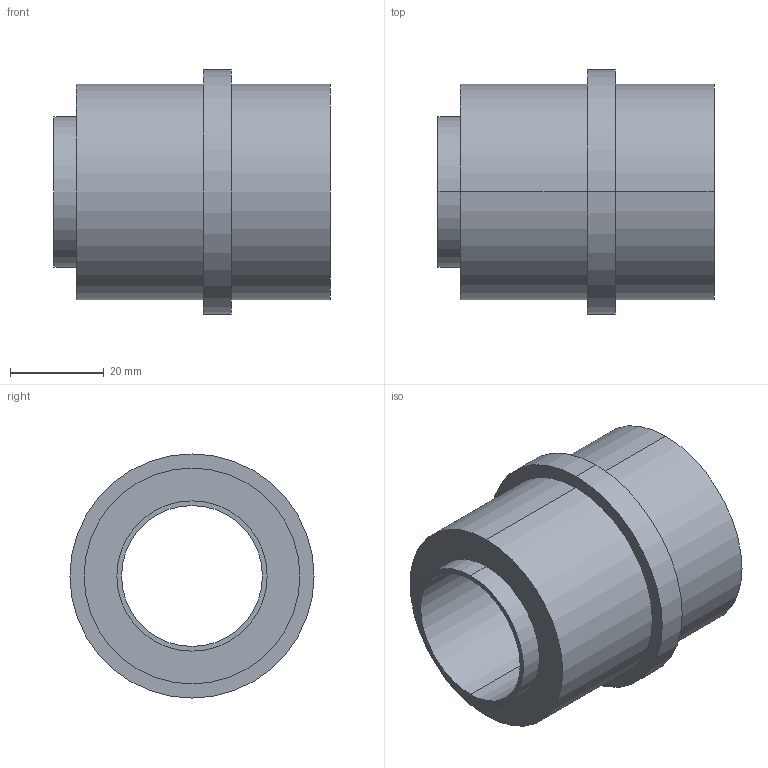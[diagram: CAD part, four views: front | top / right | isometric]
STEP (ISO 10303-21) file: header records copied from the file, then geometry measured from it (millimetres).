
FILE_DESCRIPTION (( 'STEP AP214' ), '1' );
FILE_NAME ('BR12-30x56.STEP', '2020-06-22T11:01:08', ( '' ), ( '' ), 'SwSTEP 2.0', 'SolidWorks 2018', '' );
FILE_SCHEMA (( 'AUTOMOTIVE_DESIGN' ));
Length unit declared in the file: millimetre
Products named in the file (1): BR12-30x56
Bounding box: 58.8 x 52 x 52 mm (x, y, z)
Volume: 54538 mm3; surface area: 16792.4 mm2
Topology: 1 solids, 1 shells, 18 faces, 36 edges, 24 vertices
Faces by surface type: cylinder 12, plane 6
Entity records: 522 total; most frequent: DIRECTION 98, CARTESIAN_POINT 79, ORIENTED_EDGE 72, AXIS2_PLACEMENT_3D 43, EDGE_CURVE 36, VERTEX_POINT 24, EDGE_LOOP 24, CIRCLE 24
